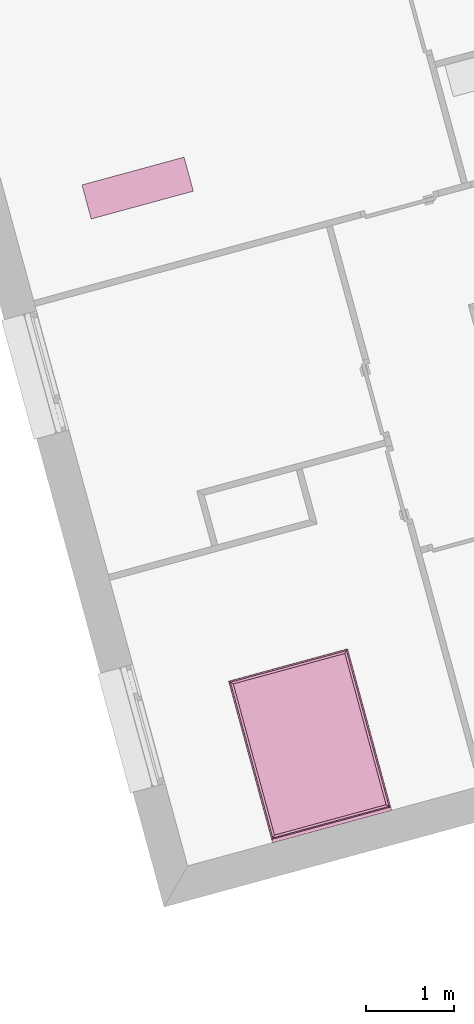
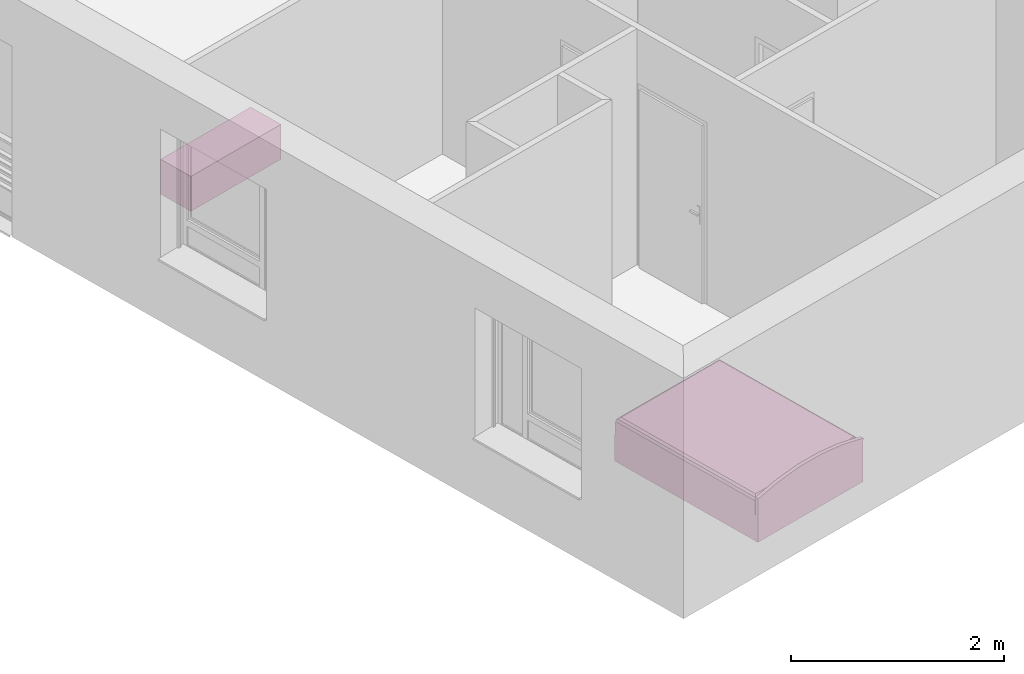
# One storey, part 106 of 121: 2 furnishings.
"""IFC2X3 building model written with IfcOpenShell, lengths in metres."""

from ifc_helpers import new_model, entity, si_unit, converted_unit, derived_unit, money_unit, direction, frame, origin_with_axes, place, context, subcontext, project, spatial, open_shell, faceted_brep, surface_model, source, transform, mapped, type_object, element, save


model = new_model("IFC2X3")

# Units and contexts
model_context = context("Model", 3, precision=1e-05, world=origin_with_axes(), true_north=direction((0.0, 1.0)))
body_context = subcontext(model_context, "Body", "Model", "MODEL_VIEW")
ifc_project = project(units=[si_unit("LENGTHUNIT", "METRE"), si_unit("AREAUNIT", "SQUARE_METRE"), si_unit("VOLUMEUNIT", "CUBIC_METRE"), converted_unit("PLANEANGLEUNIT", "DEGREE", entity("IfcPlaneAngleMeasure", 0.0174532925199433), si_unit("PLANEANGLEUNIT", "RADIAN"), dimensions=[0, 0, 0, 0, 0, 0, 0]), money_unit("CHF"), converted_unit("TIMEUNIT", "Year", entity("IfcTimeMeasure", 31557600.0), si_unit("TIMEUNIT", "SECOND"), dimensions=[0, 0, 1, 0, 0, 0, 0]), si_unit("MASSUNIT", "GRAM", prefix="KILO"), si_unit("THERMODYNAMICTEMPERATUREUNIT", "DEGREE_CELSIUS"), si_unit("LUMINOUSINTENSITYUNIT", "LUMEN"), si_unit("ENERGYUNIT", "JOULE", prefix="MEGA"), derived_unit("THERMALCONDUCTANCEUNIT", [(si_unit("POWERUNIT", "WATT"), 1), (si_unit("LENGTHUNIT", "METRE"), -1), (si_unit("THERMODYNAMICTEMPERATUREUNIT", "KELVIN"), -1)]), derived_unit("SPECIFICHEATCAPACITYUNIT", [(si_unit("ENERGYUNIT", "JOULE"), 1), (si_unit("MASSUNIT", "GRAM", prefix="KILO"), -1), (si_unit("THERMODYNAMICTEMPERATUREUNIT", "KELVIN"), -1)]), derived_unit("MASSDENSITYUNIT", [(si_unit("MASSUNIT", "GRAM", prefix="KILO"), 1), (si_unit("VOLUMEUNIT", "CUBIC_METRE"), -1)])], contexts=[model_context])

# Site, building, storey
site_placement = place(None, origin_with_axes())
site = spatial("IfcSite", under=ifc_project, at=site_placement, Name="Site", CompositionType="ELEMENT")
building_placement = place(site_placement, origin_with_axes())
building = spatial("IfcBuilding", under=site, at=building_placement, Name="Bâtiment", CompositionType="ELEMENT")
storey_placement = place(building_placement, frame((0.0, 0.0, 2.75), z_axis=(0.0, 0.0, 1.0), x_axis=(1.0, 0.0, 0.0)))
storey = spatial("IfcBuildingStorey", under=building, at=storey_placement, Name="Etage 1", CompositionType="ELEMENT", Elevation=2.75)

# Furnishings
furnishing_element_type_1 = type_object("IfcFurnishingElementType", Name="Meuble à plans 27")
shared_shape_1 = source(origin_with_axes(), body_context, "Body", "SurfaceModel", [
    surface_model("IfcShellBasedSurfaceModel", [(1.18, 0.02, 0.0), (0.02, 0.02, 0.0), (0.02, 0.4, 0.0), (1.18, 0.4, 0.0)], [open_shell([[[0, 1, 2, 3]]])]),
    faceted_brep([(0.0, 0.4, 0.0), (1.2, 0.4, 0.0), (1.2, 0.0, 0.0), (0.0, 0.0, 0.0), (0.0, 0.4, 0.4), (1.2, 0.4, 0.4), (0.02, 0.4, 0.01999999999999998), (1.18, 0.4, 0.01999999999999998), (1.18, 0.4, 0.38), (0.02, 0.4, 0.38), (1.2, 0.0, 0.4), (0.0, 0.0, 0.4), (0.02, 0.0, 0.02), (0.02, 0.0, 0.38), (1.18, 0.0, 0.38), (1.18, 0.0, 0.02)], [[[0, 1, 2, 3]], [[0, 4, 5, 1], [6, 7, 8, 9]], [[1, 5, 10, 2]], [[3, 2, 10, 11], [12, 13, 14, 15]], [[4, 0, 3, 11]], [[5, 4, 11, 10]], [[7, 6, 12, 15]], [[8, 7, 15, 14]], [[9, 8, 14, 13]], [[6, 9, 13, 12]]]),
    faceted_brep([(1.18, 0.4, 0.01999999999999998), (0.02, 0.4, 0.01999999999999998), (0.02, 0.4, 0.38), (1.18, 0.4, 0.38), (1.18, 0.38, 0.01999999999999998), (0.02, 0.38, 0.01999999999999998), (0.02, 0.3800000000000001, 0.38), (1.18, 0.3800000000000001, 0.38)], [[[0, 1, 2, 3]], [[1, 0, 4, 5]], [[2, 1, 5, 6]], [[3, 2, 6, 7]], [[0, 3, 7, 4]], [[5, 4, 7, 6]]]),
    faceted_brep([(1.18, 0.0, 0.02), (0.02, 0.0, 0.02), (0.02, 0.38, 0.02), (1.18, 0.38, 0.02), (1.18, 0.0, 0.3750000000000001), (0.02, 0.0, 0.3750000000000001), (0.02, 0.38, 0.3750000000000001), (1.18, 0.38, 0.3750000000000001)], [[[0, 1, 2, 3]], [[1, 0, 4, 5]], [[2, 1, 5, 6]], [[3, 2, 6, 7]], [[0, 3, 7, 4]], [[5, 4, 7, 6]]]),
])
furnishing_1_placement = place(storey_placement, frame((9589.967124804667, -1050.927752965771, 57.92018680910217), z_axis=(0.0, 0.0, 1.0), x_axis=(-0.9648682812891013, -0.2627340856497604, 0.0)))
element("IfcFurnishingElement", 1, at=furnishing_1_placement, inside=storey, type_object=furnishing_element_type_1, Name="Obj.-376", context=body_context, shape_type="MappedRepresentation", body=[
    mapped(shared_shape_1, transform((0.0, 0.0, 0.0))),
])
furnishing_element_type_2 = type_object("IfcFurnishingElementType", Name="Lit double 01")
shared_shape_2 = source(origin_with_axes(), body_context, "Body", "Brep", [
    faceted_brep([(0.0, 1.895, 0.0), (0.0, 1.865, 0.0), (-1.4, 1.865, 0.0), (-1.4, 1.895, 0.0), (0.0, 1.895, 0.48), (0.0, 1.865, 0.48), (-0.276362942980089, 1.865, 0.5438448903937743), (-0.558179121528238, 1.865, 0.5759741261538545), (-0.8418208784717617, 1.865, 0.5759741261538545), (-1.123637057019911, 1.865, 0.5438448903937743), (-1.4, 1.865, 0.48), (-1.4, 1.865, 0.4799), (-1.4, 1.895, 0.4799), (-1.4, 1.895, 0.48), (-1.123637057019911, 1.895, 0.5438448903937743), (-0.8418208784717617, 1.895, 0.5759741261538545), (-0.558179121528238, 1.895, 0.5759741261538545), (-0.276362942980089, 1.895, 0.5438448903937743)], [[[0, 1, 2, 3]], [[4, 5, 1, 0]], [[1, 5, 6, 7, 8, 9, 10, 11, 2]], [[3, 2, 11, 12]], [[0, 3, 12, 13, 14, 15, 16, 17, 4]], [[17, 6, 5, 4]], [[16, 7, 6, 17]], [[15, 8, 7, 16]], [[14, 9, 8, 15]], [[13, 10, 9, 14]], [[12, 11, 10, 13]]]),
    faceted_brep([(-1.4, 1.9, 0.48), (-1.4, 1.86, 0.48), (-1.399999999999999, 1.86, 0.4999999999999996), (-1.399999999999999, 1.9, 0.4999999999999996), (-1.123637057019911, 1.9, 0.5438448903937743), (-1.123637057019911, 1.86, 0.5438448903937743), (-0.8418208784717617, 1.86, 0.5759741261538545), (-0.558179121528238, 1.86, 0.5759741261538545), (-0.276362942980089, 1.86, 0.5438448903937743), (0.0, 1.86, 0.48), (0.0, 1.86, 0.4999), (0.0, 1.86, 0.5), (-0.276362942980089, 1.86, 0.5638448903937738), (-0.5581791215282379, 1.86, 0.5959741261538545), (-0.8418208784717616, 1.86, 0.5959741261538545), (-1.123637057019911, 1.86, 0.5638448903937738), (-1.123637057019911, 1.9, 0.5638448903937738), (-0.8418208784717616, 1.9, 0.5959741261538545), (-0.5581791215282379, 1.9, 0.5959741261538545), (-0.276362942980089, 1.9, 0.5638448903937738), (0.0, 1.9, 0.5), (0.0, 1.9, 0.4999), (0.0, 1.9, 0.48), (-0.276362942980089, 1.9, 0.5438448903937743), (-0.558179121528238, 1.9, 0.5759741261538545), (-0.8418208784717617, 1.9, 0.5759741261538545)], [[[0, 1, 2, 3]], [[4, 5, 1, 0]], [[1, 5, 6, 7, 8, 9, 10, 11, 12, 13, 14, 15, 2]], [[3, 2, 15, 16]], [[0, 3, 16, 17, 18, 19, 20, 21, 22, 23, 24, 25, 4]], [[25, 6, 5, 4]], [[24, 7, 6, 25]], [[23, 8, 7, 24]], [[22, 9, 8, 23]], [[21, 10, 9, 22]], [[20, 11, 10, 21]], [[19, 12, 11, 20]], [[18, 13, 12, 19]], [[17, 14, 13, 18]], [[16, 15, 14, 17]]]),
    faceted_brep([(-1.4, 0.0, 0.0), (-1.4, 1.865, 0.0), (0.0, 1.865, 0.0), (0.0, 0.0, 0.0), (-1.4, 0.0, 0.3), (-1.4, 1.865, 0.3), (0.0, 1.865, 0.3), (0.0, 0.0, 0.3)], [[[0, 1, 2, 3]], [[0, 4, 5, 1]], [[1, 5, 6, 2]], [[2, 6, 7, 3]], [[3, 7, 4, 0]], [[7, 6, 5, 4]]]),
    faceted_brep([(0.0, 0.02, 0.43), (-0.002679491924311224, 0.01, 0.43), (-0.009999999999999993, 0.002679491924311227, 0.43), (-0.01999999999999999, 0.0, 0.43), (-1.38, 0.0, 0.43), (-1.39, 0.002679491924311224, 0.43), (-1.397320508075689, 0.009999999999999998, 0.43), (-1.4, 0.02, 0.43), (-1.4, 1.845, 0.43), (-1.397320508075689, 1.855, 0.43), (-1.39, 1.862320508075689, 0.43), (-1.38, 1.865, 0.43), (-0.02, 1.865, 0.43), (-0.009999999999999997, 1.862320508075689, 0.43), (-0.002679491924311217, 1.855, 0.43), (0.0, 1.845, 0.43), (3.895163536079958e-10, 0.02000000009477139, 0.44), (-0.002679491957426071, 0.0100000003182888, 0.44), (-0.0100000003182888, 0.002679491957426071, 0.44), (-0.02000000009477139, -3.895163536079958e-10, 0.44), (-1.380000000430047, -3.895163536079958e-10, 0.44), (-1.39000000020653, 0.002679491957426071, 0.44), (-1.39732050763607, 0.0100000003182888, 0.44), (-1.399999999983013, 0.02000000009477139, 0.44), (-1.399999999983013, 1.845000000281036, 0.44), (-1.39732050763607, 1.855000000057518, 0.44), (-1.39000000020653, 1.862320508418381, 0.44), (-1.380000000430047, 1.864999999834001, 0.44), (-0.02000000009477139, 1.864999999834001, 0.44), (-0.0100000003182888, 1.862320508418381, 0.44), (-0.002679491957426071, 1.855000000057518, 0.44), (3.895163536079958e-10, 1.845000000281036, 0.44), (-0.002044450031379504, 0.02026915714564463, 0.4555291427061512), (-0.004512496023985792, 0.01105828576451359, 0.4555291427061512), (-0.01105828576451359, 0.004512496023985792, 0.4555291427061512), (-0.02026915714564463, 0.002044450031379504, 0.4555291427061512), (-1.379730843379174, 0.002044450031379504, 0.4555291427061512), (-1.388941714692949, 0.004512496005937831, 0.4555291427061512), (-1.395487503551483, 0.01105828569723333, 0.4555291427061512), (-1.397955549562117, 0.02026915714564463, 0.4555291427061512), (-1.397955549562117, 1.844730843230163, 0.4555291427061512), (-1.395487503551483, 1.853941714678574, 0.4555291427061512), (-1.388941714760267, 1.860487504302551, 0.4555291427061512), (-1.379730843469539, 1.862955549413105, 0.4555291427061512), (-0.02026915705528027, 1.862955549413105, 0.4555291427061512), (-0.01105828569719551, 1.860487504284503, 0.4555291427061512), (-0.004512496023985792, 1.853941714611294, 0.4555291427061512), (-0.002044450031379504, 1.844730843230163, 0.4555291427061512), (-0.01757359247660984, 0.02231360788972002, 0.4824264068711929), (-0.01843554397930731, 0.01909676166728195, 0.4824264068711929), (-0.01909676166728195, 0.01843554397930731, 0.4824264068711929), (-0.02231360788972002, 0.01757359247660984, 0.4824264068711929), (-1.377686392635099, 0.01757359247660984, 0.4824264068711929), (-1.380903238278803, 0.01843554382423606, 0.4824264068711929), (-1.381564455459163, 0.01909676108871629, 0.4824264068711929), (-1.382426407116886, 0.02231360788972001, 0.4824264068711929), (-1.382426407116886, 1.842686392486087, 0.4824264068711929), (-1.381564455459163, 1.845903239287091, 0.4824264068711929), (-1.380903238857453, 1.846564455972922, 0.4824264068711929), (-1.377686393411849, 1.847426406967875, 0.4824264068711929), (-0.02231360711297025, 1.847426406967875, 0.4824264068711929), (-0.01909676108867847, 1.846564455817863, 0.4824264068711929), (-0.01843554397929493, 1.845903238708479, 0.4824264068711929), (-0.01757359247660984, 1.842686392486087, 0.4824264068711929), (-0.02303225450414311, 0.02303225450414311, 0.4855779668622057), (-0.02000000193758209, 0.02000000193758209, 0.4834338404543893), (-0.04447085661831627, 0.04447085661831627, 0.4979555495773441), (-1.35552914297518, 0.04447085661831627, 0.4979555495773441), (-1.376967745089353, 0.02303225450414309, 0.4855779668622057), (-1.379999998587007, 0.02000000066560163, 0.4834338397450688), (-1.35552914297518, 1.820529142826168, 0.4979555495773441), (-1.376967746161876, 1.841967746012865, 0.4855779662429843), (-1.380000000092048, 1.845000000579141, 0.4834338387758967), (-0.04447085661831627, 1.820529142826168, 0.4979555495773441), (-0.02303225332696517, 1.841967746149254, 0.48557796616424), (-0.02000000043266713, 1.844999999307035, 0.4834338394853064), (-0.05999999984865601, 0.05999999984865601, 0.5000000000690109), (-1.33999999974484, 0.05999999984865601, 0.5000000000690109), (-1.33999999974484, 1.804999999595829, 0.5000000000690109), (-0.05999999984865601, 1.804999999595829, 0.5000000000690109)], [[[0, 1, 2, 3, 4, 5, 6, 7, 8, 9, 10, 11, 12, 13, 14, 15]], [[0, 16, 17, 1]], [[1, 17, 18, 2]], [[2, 18, 19, 3]], [[3, 19, 20, 4]], [[4, 20, 21, 5]], [[5, 21, 22, 6]], [[6, 22, 23, 7]], [[7, 23, 24, 8]], [[8, 24, 25, 9]], [[9, 25, 26, 10]], [[10, 26, 27, 11]], [[11, 27, 28, 12]], [[12, 28, 29, 13]], [[13, 29, 30, 14]], [[14, 30, 31, 15]], [[15, 31, 16, 0]], [[16, 32, 33, 17]], [[17, 33, 34, 18]], [[18, 34, 35, 19]], [[19, 35, 36, 20]], [[20, 36, 37, 21]], [[21, 37, 38, 22]], [[22, 38, 39, 23]], [[23, 39, 40, 24]], [[24, 40, 41, 25]], [[25, 41, 42, 26]], [[26, 42, 43, 27]], [[27, 43, 44, 28]], [[28, 44, 45, 29]], [[29, 45, 46, 30]], [[30, 46, 47, 31]], [[31, 47, 32, 16]], [[32, 48, 49, 33]], [[33, 49, 50, 34]], [[34, 50, 51, 35]], [[35, 51, 52, 36]], [[36, 52, 53, 37]], [[37, 53, 54, 38]], [[38, 54, 55, 39]], [[39, 55, 56, 40]], [[40, 56, 57, 41]], [[41, 57, 58, 42]], [[42, 58, 59, 43]], [[43, 59, 60, 44]], [[44, 60, 61, 45]], [[45, 61, 62, 46]], [[46, 62, 63, 47]], [[47, 63, 48, 32]], [[48, 64, 65, 49]], [[49, 65, 50]], [[50, 65, 64, 51]], [[51, 64, 66, 67, 68, 52]], [[52, 68, 69, 53]], [[53, 69, 54]], [[54, 69, 68, 55]], [[55, 68, 67, 70, 71, 56]], [[56, 71, 72, 57]], [[57, 72, 58]], [[58, 72, 71, 59]], [[59, 71, 70, 73, 74, 60]], [[60, 74, 75, 61]], [[61, 75, 62]], [[62, 75, 74, 63]], [[63, 74, 73, 66, 64, 48]], [[66, 76, 77, 67]], [[67, 77, 78, 70]], [[70, 78, 79, 73]], [[73, 79, 76, 66]], [[78, 77, 76, 79]]]),
    faceted_brep([(-1.39000000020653, 0.002679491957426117, 0.2999999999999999), (-1.39, 0.002679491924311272, 0.3099999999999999), (-1.397320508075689, 0.01000000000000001, 0.3099999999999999), (-1.39732050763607, 0.01000000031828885, 0.2999999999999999), (-1.380000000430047, -3.895163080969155e-10, 0.2999999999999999), (-1.38, 0.0, 0.3099999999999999), (-1.4, 0.02000000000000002, 0.3099999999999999), (-0.02000000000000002, 0.0, 0.3099999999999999), (-0.01000000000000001, 0.002679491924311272, 0.3099999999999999), (-0.002679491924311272, 0.01000000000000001, 0.3099999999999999), (0.0, 0.02000000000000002, 0.3099999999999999), (0.0, 1.845, 0.3099999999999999), (-0.002679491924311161, 1.855, 0.3099999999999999), (-0.01000000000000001, 1.862320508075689, 0.3099999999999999), (-0.02000000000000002, 1.865, 0.3099999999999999), (-1.38, 1.865, 0.3099999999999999), (-1.39, 1.862320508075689, 0.3099999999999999), (-1.397320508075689, 1.855, 0.3099999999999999), (-1.4, 1.845, 0.3099999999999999), (-1.399999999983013, 0.02000000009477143, 0.2999999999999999), (-1.399999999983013, 1.845000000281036, 0.2999999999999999), (-1.39732050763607, 1.855000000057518, 0.2999999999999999), (-1.39000000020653, 1.862320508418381, 0.2999999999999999), (-1.380000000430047, 1.864999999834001, 0.2999999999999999), (-0.02000000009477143, 1.864999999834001, 0.2999999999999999), (-0.01000000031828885, 1.862320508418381, 0.2999999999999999), (-0.002679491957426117, 1.855000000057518, 0.2999999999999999), (3.895163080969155e-10, 1.845000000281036, 0.2999999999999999), (3.895163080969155e-10, 0.02000000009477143, 0.2999999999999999), (-0.002679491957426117, 0.01000000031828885, 0.2999999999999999), (-0.01000000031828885, 0.002679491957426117, 0.2999999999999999), (-0.02000000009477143, -3.895163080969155e-10, 0.2999999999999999)], [[[0, 1, 2, 3]], [[1, 0, 4, 5]], [[6, 2, 1, 5, 7, 8, 9, 10, 11, 12, 13, 14, 15, 16, 17, 18]], [[3, 2, 6, 19]], [[3, 19, 20, 21, 22, 23, 24, 25, 26, 27, 28, 29, 30, 31, 4, 0]], [[7, 5, 4, 31]], [[30, 8, 7, 31]], [[8, 30, 29, 9]], [[9, 29, 28, 10]], [[10, 28, 27, 11]], [[26, 12, 11, 27]], [[12, 26, 25, 13]], [[25, 24, 14, 13]], [[24, 23, 15, 14]], [[22, 16, 15, 23]], [[21, 17, 16, 22]], [[17, 21, 20, 18]], [[19, 6, 18, 20]]]),
    faceted_brep([(0.0, 0.02, 0.3099999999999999), (0.0, 0.02, 0.4299999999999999), (-0.002679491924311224, 0.01, 0.4299999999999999), (-0.002679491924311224, 0.01, 0.3099999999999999), (0.0, 1.845, 0.3099999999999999), (0.0, 1.845, 0.4299999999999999), (-0.002679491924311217, 1.855, 0.4299999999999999), (-0.009999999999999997, 1.862320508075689, 0.4299999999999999), (-0.02, 1.865, 0.4299999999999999), (-1.38, 1.865, 0.4299999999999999), (-1.39, 1.862320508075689, 0.4299999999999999), (-1.397320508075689, 1.855, 0.4299999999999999), (-1.4, 1.845, 0.4299999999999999), (-1.4, 0.02, 0.4299999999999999), (-1.397320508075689, 0.009999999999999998, 0.4299999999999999), (-1.39, 0.002679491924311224, 0.4299999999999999), (-1.38, 0.0, 0.4299999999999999), (-0.01999999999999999, 0.0, 0.4299999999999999), (-0.009999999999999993, 0.002679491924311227, 0.4299999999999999), (-0.009999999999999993, 0.002679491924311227, 0.3099999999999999), (-0.01999999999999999, 0.0, 0.3099999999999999), (-1.38, 0.0, 0.3099999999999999), (-1.39, 0.002679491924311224, 0.3099999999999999), (-1.397320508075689, 0.009999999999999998, 0.3099999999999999), (-1.4, 0.02, 0.3099999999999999), (-1.4, 1.845, 0.3099999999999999), (-1.397320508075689, 1.855, 0.3099999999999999), (-1.39, 1.862320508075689, 0.3099999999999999), (-1.38, 1.865, 0.3099999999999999), (-0.02, 1.865, 0.3099999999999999), (-0.009999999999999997, 1.862320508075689, 0.3099999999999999), (-0.002679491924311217, 1.855, 0.3099999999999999)], [[[0, 1, 2, 3]], [[4, 5, 1, 0]], [[1, 5, 6, 7, 8, 9, 10, 11, 12, 13, 14, 15, 16, 17, 18, 2]], [[3, 2, 18, 19]], [[0, 3, 19, 20, 21, 22, 23, 24, 25, 26, 27, 28, 29, 30, 31, 4]], [[31, 6, 5, 4]], [[30, 7, 6, 31]], [[29, 8, 7, 30]], [[28, 9, 8, 29]], [[27, 10, 9, 28]], [[26, 11, 10, 27]], [[25, 12, 11, 26]], [[24, 13, 12, 25]], [[23, 14, 13, 24]], [[22, 15, 14, 23]], [[21, 16, 15, 22]], [[20, 17, 16, 21]], [[19, 18, 17, 20]]]),
])
furnishing_2_placement = place(storey_placement, frame((9590.47073097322, -1056.868496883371, 57.7), z_axis=(0.0, 0.0, 1.0), x_axis=(-0.9648682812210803, -0.2627340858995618, 0.0)))
element("IfcFurnishingElement", 2, at=furnishing_2_placement, inside=storey, type_object=furnishing_element_type_2, Name="Obj.-002", context=body_context, shape_type="MappedRepresentation", body=[
    mapped(shared_shape_2, transform((0.0, 0.0, 0.0))),
])

save(model, "model.ifc")
